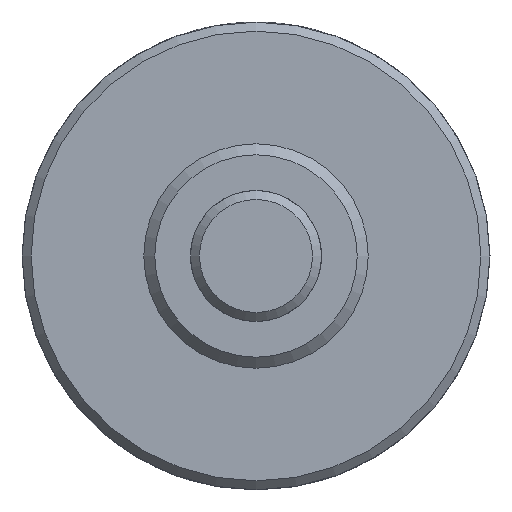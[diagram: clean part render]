
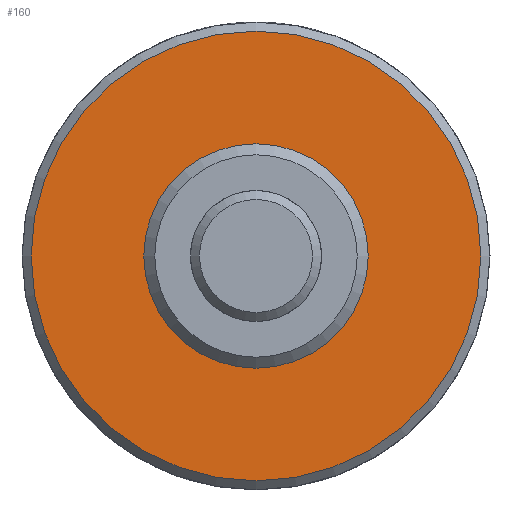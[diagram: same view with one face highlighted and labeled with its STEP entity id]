
A CAD part, left-side view. The second image highlights one B-rep face of the part: STEP entity #160.
In plain terms, the highlighted planar face has unit normal (-1, 0, 0).
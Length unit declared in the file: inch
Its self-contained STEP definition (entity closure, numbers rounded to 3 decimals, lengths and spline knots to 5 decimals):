
#160 = ADVANCED_FACE( '', ( #329, #330 ), #331, .F. );
#329 = FACE_OUTER_BOUND( '', #525, .T. );
#330 = FACE_BOUND( '', #526, .T. );
#331 = PLANE( '', #527 );
#525 = EDGE_LOOP( '', ( #788 ) );
#526 = EDGE_LOOP( '', ( #789 ) );
#527 = AXIS2_PLACEMENT_3D( '', #790, #791, #792 );
#788 = ORIENTED_EDGE( '', *, *, #1047, .F. );
#789 = ORIENTED_EDGE( '', *, *, #1048, .T. );
#790 = CARTESIAN_POINT( '', ( 0.625, 0.3745, 0. ) );
#791 = DIRECTION( '', ( 1., 0., 0. ) );
#792 = DIRECTION( '', ( 0., 0., -1. ) );
#1047 = EDGE_CURVE( '', #1209, #1209, #1210, .T. );
#1048 = EDGE_CURVE( '', #1211, #1211, #1212, .T. );
#1209 = VERTEX_POINT( '', #1414 );
#1210 = CIRCLE( '', #1415, 0.7515 );
#1211 = VERTEX_POINT( '', #1416 );
#1212 = CIRCLE( '', #1417, 0.3745 );
#1414 = CARTESIAN_POINT( '', ( 0.625, 0., -0.7515 ) );
#1415 = AXIS2_PLACEMENT_3D( '', #1660, #1661, #1662 );
#1416 = CARTESIAN_POINT( '', ( 0.625, 0., -0.3745 ) );
#1417 = AXIS2_PLACEMENT_3D( '', #1663, #1664, #1665 );
#1660 = CARTESIAN_POINT( '', ( 0.625, 0., 0. ) );
#1661 = DIRECTION( '', ( 1., 0., 0. ) );
#1662 = DIRECTION( '', ( 0., 0., -1. ) );
#1663 = CARTESIAN_POINT( '', ( 0.625, 0., 0. ) );
#1664 = DIRECTION( '', ( 1., 0., 0. ) );
#1665 = DIRECTION( '', ( 0., 0., -1. ) );
